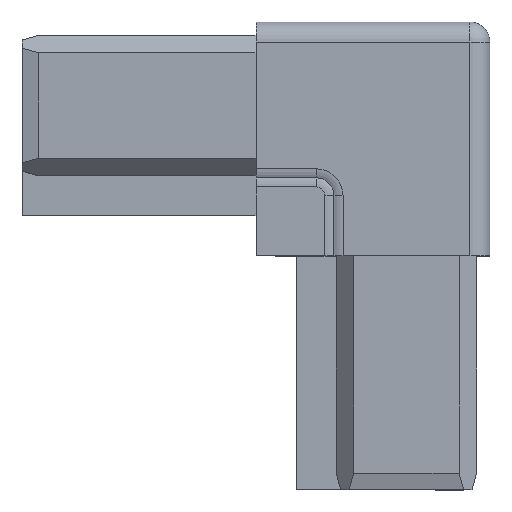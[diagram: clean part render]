
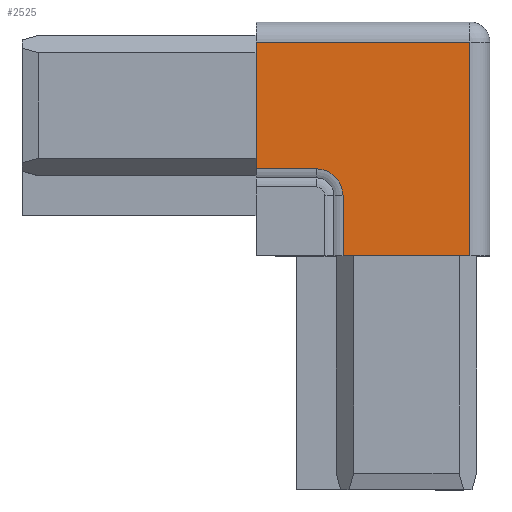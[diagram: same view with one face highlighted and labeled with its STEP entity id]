
A CAD part, top view. The second image highlights one B-rep face of the part: STEP entity #2525.
In plain terms, the highlighted planar face has unit normal (0, 0, 1).
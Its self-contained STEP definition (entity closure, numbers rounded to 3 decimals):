
#82 = EDGE_CURVE ( 'NONE', #1925, #1721, #2094, .T. ) ;
#91 = VECTOR ( 'NONE', #737, 1000. ) ;
#165 = DIRECTION ( 'NONE',  ( 0., 1., 0. ) ) ;
#187 = ORIENTED_EDGE ( 'NONE', *, *, #3693, .T. ) ;
#260 = CARTESIAN_POINT ( 'NONE',  ( -22.5, -22.5, 12.5 ) ) ;
#284 = VERTEX_POINT ( 'NONE', #318 ) ;
#318 = CARTESIAN_POINT ( 'NONE',  ( -22.5, -9.48, 12.5 ) ) ;
#331 = CIRCLE ( 'NONE', #862, 4.02 ) ;
#339 = PLANE ( 'NONE',  #1404 ) ;
#342 = CARTESIAN_POINT ( 'NONE',  ( -9.48, -13.5, 12.5 ) ) ;
#436 = DIRECTION ( 'NONE',  ( 1., 0., 0. ) ) ;
#464 = LINE ( 'NONE', #763, #2482 ) ;
#485 = ORIENTED_EDGE ( 'NONE', *, *, #82, .T. ) ;
#521 = EDGE_CURVE ( 'NONE', #1724, #284, #3062, .T. ) ;
#530 = CARTESIAN_POINT ( 'NONE',  ( -22.5, 9.5, 12.5 ) ) ;
#578 = CARTESIAN_POINT ( 'NONE',  ( 12.5, 12.5, 12.5 ) ) ;
#627 = CARTESIAN_POINT ( 'NONE',  ( 9.5, -22.5, 12.5 ) ) ;
#652 = ORIENTED_EDGE ( 'NONE', *, *, #2778, .T. ) ;
#700 = VECTOR ( 'NONE', #2353, 1000. ) ;
#736 = CARTESIAN_POINT ( 'NONE',  ( -9.48, -13.5, 12.5 ) ) ;
#737 = DIRECTION ( 'NONE',  ( -1., 0., 0. ) ) ;
#763 = CARTESIAN_POINT ( 'NONE',  ( 9.5, 12.5, 12.5 ) ) ;
#823 = ORIENTED_EDGE ( 'NONE', *, *, #521, .T. ) ;
#862 = AXIS2_PLACEMENT_3D ( 'NONE', #2943, #904, #1501 ) ;
#904 = DIRECTION ( 'NONE',  ( 0., 0., -1. ) ) ;
#912 = DIRECTION ( 'NONE',  ( 0., 0., 1. ) ) ;
#956 = CARTESIAN_POINT ( 'NONE',  ( 12.5, -22.5, 12.5 ) ) ;
#1090 = CARTESIAN_POINT ( 'NONE',  ( 9.5, 9.5, 12.5 ) ) ;
#1121 = ORIENTED_EDGE ( 'NONE', *, *, #2681, .T. ) ;
#1296 = VERTEX_POINT ( 'NONE', #1333 ) ;
#1333 = CARTESIAN_POINT ( 'NONE',  ( -13.5, -9.48, 12.5 ) ) ;
#1404 = AXIS2_PLACEMENT_3D ( 'NONE', #578, #912, #2052 ) ;
#1474 = EDGE_CURVE ( 'NONE', #1296, #1925, #331, .T. ) ;
#1476 = DIRECTION ( 'NONE',  ( 0., -1., 0. ) ) ;
#1501 = DIRECTION ( 'NONE',  ( -1., 0., 0. ) ) ;
#1523 = VECTOR ( 'NONE', #1476, 1000. ) ;
#1595 = EDGE_CURVE ( 'NONE', #1296, #284, #2737, .T. ) ;
#1608 = CARTESIAN_POINT ( 'NONE',  ( -13.5, -9.48, 12.5 ) ) ;
#1650 = EDGE_LOOP ( 'NONE', ( #1121, #652, #823, #2936, #1940, #485, #187 ) ) ;
#1661 = DIRECTION ( 'NONE',  ( 0., -1., 0. ) ) ;
#1716 = CARTESIAN_POINT ( 'NONE',  ( 12.5, 9.5, 12.5 ) ) ;
#1721 = VERTEX_POINT ( 'NONE', #3646 ) ;
#1724 = VERTEX_POINT ( 'NONE', #530 ) ;
#1879 = VECTOR ( 'NONE', #436, 1000. ) ;
#1925 = VERTEX_POINT ( 'NONE', #736 ) ;
#1940 = ORIENTED_EDGE ( 'NONE', *, *, #1474, .T. ) ;
#2052 = DIRECTION ( 'NONE',  ( 1., 0., 0. ) ) ;
#2094 = LINE ( 'NONE', #342, #1523 ) ;
#2263 = VERTEX_POINT ( 'NONE', #627 ) ;
#2353 = DIRECTION ( 'NONE',  ( -1., 0., 0. ) ) ;
#2373 = LINE ( 'NONE', #1716, #700 ) ;
#2482 = VECTOR ( 'NONE', #165, 1000. ) ;
#2525 = ADVANCED_FACE ( 'NONE', ( #2895 ), #339, .T. ) ;
#2681 = EDGE_CURVE ( 'NONE', #2263, #3020, #464, .T. ) ;
#2737 = LINE ( 'NONE', #1608, #91 ) ;
#2778 = EDGE_CURVE ( 'NONE', #3020, #1724, #2373, .T. ) ;
#2895 = FACE_OUTER_BOUND ( 'NONE', #1650, .T. ) ;
#2936 = ORIENTED_EDGE ( 'NONE', *, *, #1595, .F. ) ;
#2943 = CARTESIAN_POINT ( 'NONE',  ( -13.5, -13.5, 12.5 ) ) ;
#3020 = VERTEX_POINT ( 'NONE', #1090 ) ;
#3062 = LINE ( 'NONE', #260, #3530 ) ;
#3221 = LINE ( 'NONE', #956, #1879 ) ;
#3530 = VECTOR ( 'NONE', #1661, 1000. ) ;
#3646 = CARTESIAN_POINT ( 'NONE',  ( -9.48, -22.5, 12.5 ) ) ;
#3693 = EDGE_CURVE ( 'NONE', #1721, #2263, #3221, .T. ) ;
